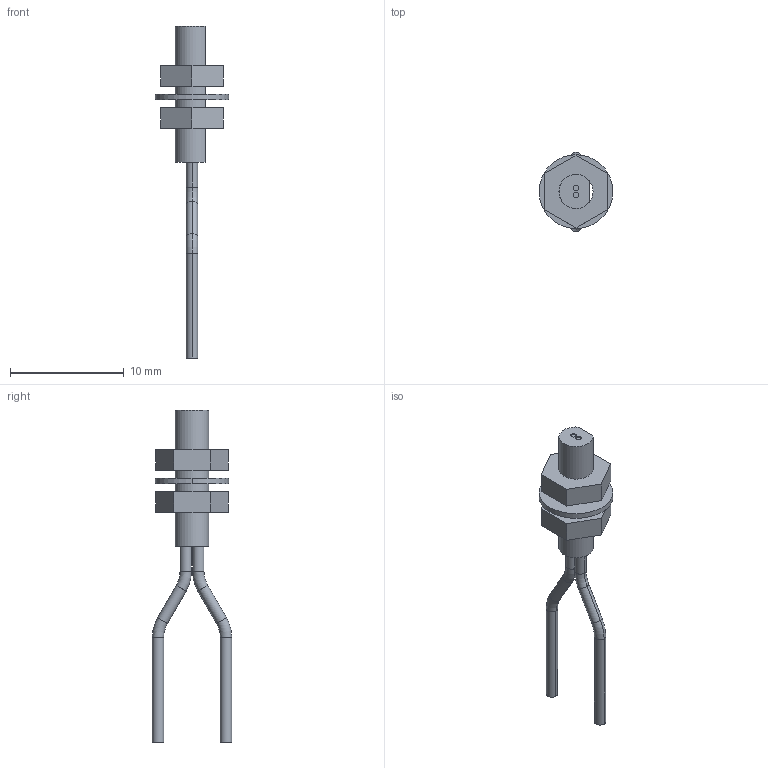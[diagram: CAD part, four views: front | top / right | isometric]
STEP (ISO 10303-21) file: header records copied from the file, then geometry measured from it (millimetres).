
FILE_DESCRIPTION (( 'STEP AP203' ), '1' );
FILE_NAME ('FD-WT4.STEP', '2005-09-04T10:29:47', ( '川島良英' ), ( ' ' ), 'SwSTEP 2.0', 'SolidWorks 2004251', '' );
FILE_SCHEMA (( 'CONFIG_CONTROL_DESIGN' ));
Length unit declared in the file: millimetre
Products named in the file (1): FD-WT4
Bounding box: 6.5 x 7 x 29.24 mm (x, y, z)
Volume: 190.3 mm3; surface area: 483.4 mm2
Topology: 4 solids, 4 shells, 58 faces, 122 edges, 76 vertices
Faces by surface type: cylinder 25, plane 25, torus 8
Entity records: 1639 total; most frequent: DIRECTION 298, CARTESIAN_POINT 257, ORIENTED_EDGE 244, EDGE_CURVE 122, AXIS2_PLACEMENT_3D 117, VERTEX_POINT 76, EDGE_LOOP 68, VECTOR 64
